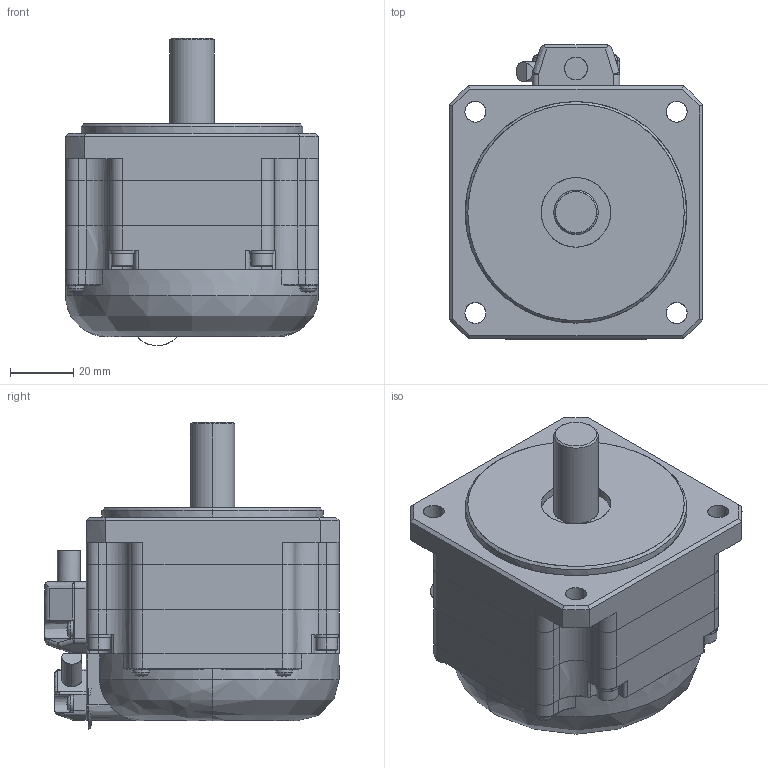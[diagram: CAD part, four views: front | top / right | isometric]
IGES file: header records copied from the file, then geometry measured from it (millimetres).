
Start section: SolidWorks IGES file using analytic representation for surfaces
Global section: file name: C:\Users\render\Documents\CAD Files\TamagawaMotors\TBL-iII-Series-14.5~80\TS4611\TS4611.IGS; native system: SolidWorks 2009; preprocessor: SolidWorks 2009; author: render; date: 100806.102037; units: millimetre
Bounding box: 80 x 93 x 97.14 mm (x, y, z)
Surface area: 68917.8 mm2 (no closed solid volume)
Topology: 0 solids, 0 shells, 632 faces, 5325 edges, 5304 vertices
Faces by surface type: bspline 355, revolution 277
